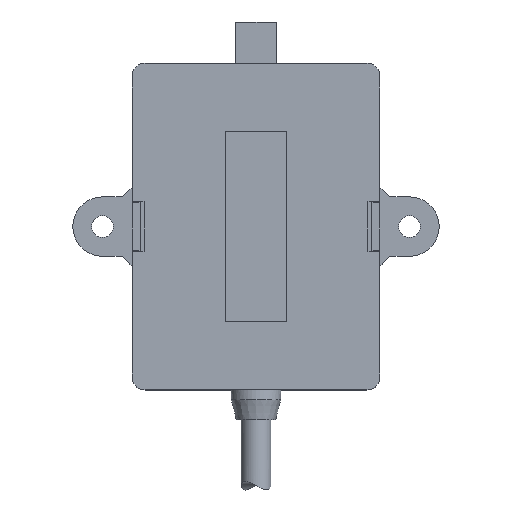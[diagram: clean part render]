
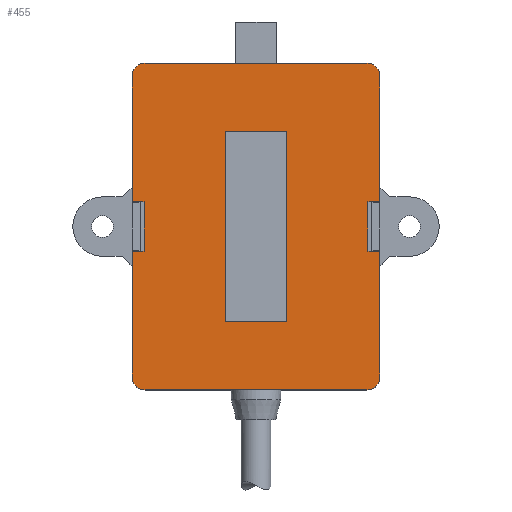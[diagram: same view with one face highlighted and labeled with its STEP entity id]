
A CAD part, top view. The second image highlights one B-rep face of the part: STEP entity #455.
In plain terms, the highlighted planar face has unit normal (0, 0, 1).
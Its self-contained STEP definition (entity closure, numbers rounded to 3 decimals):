
#455=ADVANCED_FACE('',(#904,#905),#906,.T.);
#904=FACE_OUTER_BOUND('',#1464,.T.);
#905=FACE_BOUND('',#1465,.T.);
#906=PLANE('',#1466);
#1464=EDGE_LOOP('',(#2183,#2184,#2185,#2186,#2187,#2188,#2189,#2190,#2191,#2192,#2193,#2194,#2195,#2196,#2197,#2198));
#1465=EDGE_LOOP('',(#2199,#2200,#2201,#2202));
#1466=AXIS2_PLACEMENT_3D('',#2203,#2204,#2205);
#2183=ORIENTED_EDGE('',*,*,#3500,.F.);
#2184=ORIENTED_EDGE('',*,*,#3501,.T.);
#2185=ORIENTED_EDGE('',*,*,#3502,.F.);
#2186=ORIENTED_EDGE('',*,*,#3503,.T.);
#2187=ORIENTED_EDGE('',*,*,#3504,.F.);
#2188=ORIENTED_EDGE('',*,*,#3505,.F.);
#2189=ORIENTED_EDGE('',*,*,#3506,.F.);
#2190=ORIENTED_EDGE('',*,*,#3507,.F.);
#2191=ORIENTED_EDGE('',*,*,#3508,.F.);
#2192=ORIENTED_EDGE('',*,*,#3427,.T.);
#2193=ORIENTED_EDGE('',*,*,#3509,.F.);
#2194=ORIENTED_EDGE('',*,*,#3510,.T.);
#2195=ORIENTED_EDGE('',*,*,#3511,.F.);
#2196=ORIENTED_EDGE('',*,*,#3497,.F.);
#2197=ORIENTED_EDGE('',*,*,#3423,.F.);
#2198=ORIENTED_EDGE('',*,*,#3512,.F.);
#2199=ORIENTED_EDGE('',*,*,#3513,.F.);
#2200=ORIENTED_EDGE('',*,*,#3514,.F.);
#2201=ORIENTED_EDGE('',*,*,#3437,.F.);
#2202=ORIENTED_EDGE('',*,*,#3515,.F.);
#2203=CARTESIAN_POINT('',(0.,-161.5,10.13));
#2204=DIRECTION('',(0.,0.,1.0));
#2205=DIRECTION('',(1.0,0.0,0.));
#3423=EDGE_CURVE('',#4036,#4031,#4038,.T.);
#3427=EDGE_CURVE('',#4045,#4043,#4046,.T.);
#3437=EDGE_CURVE('',#4061,#4063,#4064,.T.);
#3497=EDGE_CURVE('',#4031,#4165,#4166,.T.);
#3500=EDGE_CURVE('',#4169,#4170,#4171,.T.);
#3501=EDGE_CURVE('',#4169,#4172,#4173,.T.);
#3502=EDGE_CURVE('',#4174,#4172,#4175,.T.);
#3503=EDGE_CURVE('',#4174,#4176,#4177,.T.);
#3504=EDGE_CURVE('',#4178,#4176,#4179,.T.);
#3505=EDGE_CURVE('',#4180,#4178,#4181,.T.);
#3506=EDGE_CURVE('',#4182,#4180,#4183,.T.);
#3507=EDGE_CURVE('',#4184,#4182,#4185,.T.);
#3508=EDGE_CURVE('',#4045,#4184,#4186,.T.);
#3509=EDGE_CURVE('',#4187,#4043,#4188,.T.);
#3510=EDGE_CURVE('',#4187,#4189,#4190,.T.);
#3511=EDGE_CURVE('',#4165,#4189,#4191,.T.);
#3512=EDGE_CURVE('',#4170,#4036,#4192,.T.);
#3513=EDGE_CURVE('',#4193,#4194,#4195,.T.);
#3514=EDGE_CURVE('',#4063,#4193,#4196,.T.);
#3515=EDGE_CURVE('',#4194,#4061,#4197,.T.);
#4031=VERTEX_POINT('',#4950);
#4036=VERTEX_POINT('',#4957);
#4038=LINE('',#4960,#4961);
#4043=VERTEX_POINT('',#4966);
#4045=VERTEX_POINT('',#4969);
#4046=CIRCLE('',#4970,1.3);
#4061=VERTEX_POINT('',#4991);
#4063=VERTEX_POINT('',#4994);
#4064=LINE('',#4995,#4996);
#4165=VERTEX_POINT('',#5139);
#4166=LINE('',#5140,#5141);
#4169=VERTEX_POINT('',#5145);
#4170=VERTEX_POINT('',#5146);
#4171=LINE('',#5147,#5148);
#4172=VERTEX_POINT('',#5149);
#4173=CIRCLE('',#5150,1.3);
#4174=VERTEX_POINT('',#5151);
#4175=LINE('',#5152,#5153);
#4176=VERTEX_POINT('',#5154);
#4177=CIRCLE('',#5155,1.3);
#4178=VERTEX_POINT('',#5156);
#4179=LINE('',#5157,#5158);
#4180=VERTEX_POINT('',#5159);
#4181=LINE('',#5160,#5161);
#4182=VERTEX_POINT('',#5162);
#4183=LINE('',#5163,#5164);
#4184=VERTEX_POINT('',#5165);
#4185=LINE('',#5166,#5167);
#4186=LINE('',#5168,#5169);
#4187=VERTEX_POINT('',#5170);
#4188=LINE('',#5171,#5172);
#4189=VERTEX_POINT('',#5173);
#4190=CIRCLE('',#5174,1.3);
#4191=LINE('',#5175,#5176);
#4192=LINE('',#5177,#5178);
#4193=VERTEX_POINT('',#5179);
#4194=VERTEX_POINT('',#5180);
#4195=LINE('',#5181,#5182);
#4196=LINE('',#5183,#5184);
#4197=LINE('',#5185,#5186);
#4950=CARTESIAN_POINT('',(11.3,-164.0,10.13));
#4957=CARTESIAN_POINT('',(11.3,-159.0,10.13));
#4960=CARTESIAN_POINT('',(11.3,-161.5,10.13));
#4961=VECTOR('',#6086,1.0);
#4966=CARTESIAN_POINT('',(-11.2,-178.0,10.13));
#4969=CARTESIAN_POINT('',(-12.5,-176.7,10.13));
#4970=AXIS2_PLACEMENT_3D('',#6091,#6092,#6093);
#4991=CARTESIAN_POINT('',(-3.1,-171.1,10.13));
#4994=CARTESIAN_POINT('',(3.1,-171.1,10.13));
#4995=CARTESIAN_POINT('',(0.,-171.1,10.13));
#4996=VECTOR('',#6101,1.0);
#5139=CARTESIAN_POINT('',(12.5,-164.0,10.13));
#5140=CARTESIAN_POINT('',(11.9,-164.0,10.13));
#5141=VECTOR('',#6156,1.0);
#5145=CARTESIAN_POINT('',(12.5,-146.3,10.13));
#5146=CARTESIAN_POINT('',(12.5,-159.0,10.13));
#5147=CARTESIAN_POINT('',(12.5,-152.0,10.13));
#5148=VECTOR('',#6158,1.0);
#5149=CARTESIAN_POINT('',(11.2,-145.0,10.13));
#5150=AXIS2_PLACEMENT_3D('',#6159,#6160,#6161);
#5151=CARTESIAN_POINT('',(-11.2,-145.0,10.13));
#5152=CARTESIAN_POINT('',(0.,-145.0,10.13));
#5153=VECTOR('',#6162,1.0);
#5154=CARTESIAN_POINT('',(-12.5,-146.3,10.13));
#5155=AXIS2_PLACEMENT_3D('',#6163,#6164,#6165);
#5156=CARTESIAN_POINT('',(-12.5,-159.0,10.13));
#5157=CARTESIAN_POINT('',(-12.5,-152.0,10.13));
#5158=VECTOR('',#6166,1.0);
#5159=CARTESIAN_POINT('',(-11.3,-159.0,10.13));
#5160=CARTESIAN_POINT('',(-11.9,-159.0,10.13));
#5161=VECTOR('',#6167,1.0);
#5162=CARTESIAN_POINT('',(-11.3,-164.0,10.13));
#5163=CARTESIAN_POINT('',(-11.3,-161.5,10.13));
#5164=VECTOR('',#6168,1.0);
#5165=CARTESIAN_POINT('',(-12.5,-164.0,10.13));
#5166=CARTESIAN_POINT('',(-11.9,-164.0,10.13));
#5167=VECTOR('',#6169,1.0);
#5168=CARTESIAN_POINT('',(-12.5,-171.0,10.13));
#5169=VECTOR('',#6170,1.0);
#5170=CARTESIAN_POINT('',(11.2,-178.0,10.13));
#5171=CARTESIAN_POINT('',(0.,-178.0,10.13));
#5172=VECTOR('',#6171,1.0);
#5173=CARTESIAN_POINT('',(12.5,-176.7,10.13));
#5174=AXIS2_PLACEMENT_3D('',#6172,#6173,#6174);
#5175=CARTESIAN_POINT('',(12.5,-171.0,10.13));
#5176=VECTOR('',#6175,1.0);
#5177=CARTESIAN_POINT('',(11.9,-159.0,10.13));
#5178=VECTOR('',#6176,1.0);
#5179=CARTESIAN_POINT('',(3.1,-151.9,10.13));
#5180=CARTESIAN_POINT('',(-3.1,-151.9,10.13));
#5181=CARTESIAN_POINT('',(0.,-151.9,10.13));
#5182=VECTOR('',#6177,1.0);
#5183=CARTESIAN_POINT('',(3.1,-161.5,10.13));
#5184=VECTOR('',#6178,1.0);
#5185=CARTESIAN_POINT('',(-3.1,-161.5,10.13));
#5186=VECTOR('',#6179,1.0);
#6086=DIRECTION('',(0.,-1.0,0.));
#6091=CARTESIAN_POINT('',(-11.2,-176.7,10.13));
#6092=DIRECTION('',(0.,0.,1.0));
#6093=DIRECTION('',(-1.0,0.,0.));
#6101=DIRECTION('',(1.0,0.,0.));
#6156=DIRECTION('',(1.0,0.,0.));
#6158=DIRECTION('',(0.,-1.0,0.));
#6159=CARTESIAN_POINT('',(11.2,-146.3,10.13));
#6160=DIRECTION('',(0.,0.,1.0));
#6161=DIRECTION('',(-1.0,0.,0.));
#6162=DIRECTION('',(1.0,0.,0.));
#6163=CARTESIAN_POINT('',(-11.2,-146.3,10.13));
#6164=DIRECTION('',(0.,0.,1.0));
#6165=DIRECTION('',(-1.0,0.,0.));
#6166=DIRECTION('',(0.,1.0,0.));
#6167=DIRECTION('',(-1.0,0.,0.));
#6168=DIRECTION('',(0.,1.0,0.));
#6169=DIRECTION('',(1.0,0.,0.));
#6170=DIRECTION('',(0.,1.0,0.));
#6171=DIRECTION('',(-1.0,0.,0.));
#6172=CARTESIAN_POINT('',(11.2,-176.7,10.13));
#6173=DIRECTION('',(0.,0.,1.0));
#6174=DIRECTION('',(-1.0,0.,0.));
#6175=DIRECTION('',(0.,-1.0,0.));
#6176=DIRECTION('',(-1.0,0.,0.));
#6177=DIRECTION('',(-1.0,0.,0.));
#6178=DIRECTION('',(0.,1.0,0.));
#6179=DIRECTION('',(0.,-1.0,0.));
